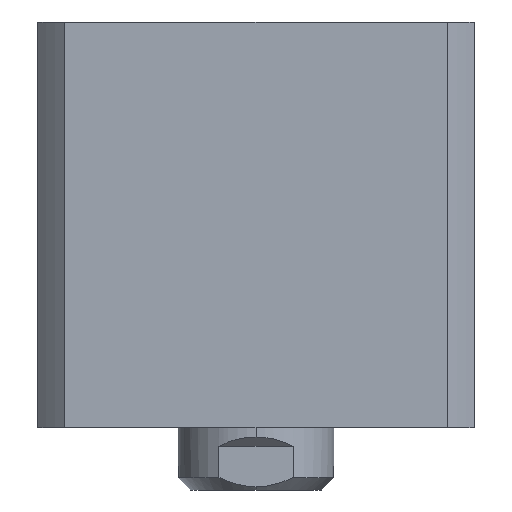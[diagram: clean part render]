
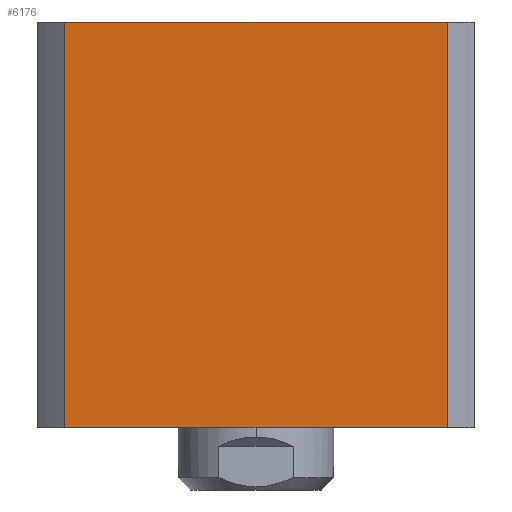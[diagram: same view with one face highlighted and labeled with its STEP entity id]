
A CAD part, front view. The second image highlights one B-rep face of the part: STEP entity #6176.
In plain terms, the highlighted planar face has unit normal (0, -1, 0) as drawn and (1, 0, 0) by its records, which use the part's own axes.
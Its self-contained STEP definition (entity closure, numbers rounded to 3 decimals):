
#682 = FACE_OUTER_BOUND ( 'NONE', #5577, .T. ) ;
#927 = CARTESIAN_POINT ( 'NONE',  ( 35., 30.615, 65. ) ) ;
#1116 = DIRECTION ( 'NONE',  ( 0., 0., -1. ) ) ;
#1283 = CARTESIAN_POINT ( 'NONE',  ( 35., 35., 65. ) ) ;
#1636 = VECTOR ( 'NONE', #3639, 1000. ) ;
#1765 = LINE ( 'NONE', #7876, #2015 ) ;
#2011 = DIRECTION ( 'NONE',  ( 0., 1., 0. ) ) ;
#2015 = VECTOR ( 'NONE', #2446, 1000. ) ;
#2019 = PLANE ( 'NONE',  #3649 ) ;
#2197 = VERTEX_POINT ( 'NONE', #3119 ) ;
#2446 = DIRECTION ( 'NONE',  ( 0., 0., 1. ) ) ;
#2974 = VECTOR ( 'NONE', #1116, 1000. ) ;
#3119 = CARTESIAN_POINT ( 'NONE',  ( 35., 30.615, 0. ) ) ;
#3639 = DIRECTION ( 'NONE',  ( 0., 1., 0. ) ) ;
#3649 = AXIS2_PLACEMENT_3D ( 'NONE', #5117, #4366, #9779 ) ;
#3917 = LINE ( 'NONE', #9084, #1636 ) ;
#3986 = CARTESIAN_POINT ( 'NONE',  ( 35., -30.615, 65. ) ) ;
#4366 = DIRECTION ( 'NONE',  ( -1., 0., 0. ) ) ;
#4900 = CARTESIAN_POINT ( 'NONE',  ( 35., -30.615, 0. ) ) ;
#5066 = LINE ( 'NONE', #8070, #2974 ) ;
#5117 = CARTESIAN_POINT ( 'NONE',  ( 35., 35., 65. ) ) ;
#5315 = ORIENTED_EDGE ( 'NONE', *, *, #6090, .F. ) ;
#5422 = VERTEX_POINT ( 'NONE', #3986 ) ;
#5577 = EDGE_LOOP ( 'NONE', ( #5315, #6425, #7054, #5928 ) ) ;
#5928 = ORIENTED_EDGE ( 'NONE', *, *, #8090, .T. ) ;
#6090 = EDGE_CURVE ( 'NONE', #8456, #2197, #5066, .T. ) ;
#6176 = ADVANCED_FACE ( 'NONE', ( #682 ), #2019, .F. ) ;
#6410 = EDGE_CURVE ( 'NONE', #5422, #8456, #7695, .T. ) ;
#6425 = ORIENTED_EDGE ( 'NONE', *, *, #6410, .F. ) ;
#7054 = ORIENTED_EDGE ( 'NONE', *, *, #7242, .F. ) ;
#7242 = EDGE_CURVE ( 'NONE', #9418, #5422, #1765, .T. ) ;
#7695 = LINE ( 'NONE', #1283, #9784 ) ;
#7876 = CARTESIAN_POINT ( 'NONE',  ( 35., -30.615, 300. ) ) ;
#8070 = CARTESIAN_POINT ( 'NONE',  ( 35., 30.615, 300. ) ) ;
#8090 = EDGE_CURVE ( 'NONE', #9418, #2197, #3917, .T. ) ;
#8456 = VERTEX_POINT ( 'NONE', #927 ) ;
#9084 = CARTESIAN_POINT ( 'NONE',  ( 35., 35., 0. ) ) ;
#9418 = VERTEX_POINT ( 'NONE', #4900 ) ;
#9779 = DIRECTION ( 'NONE',  ( 0., 0., 1. ) ) ;
#9784 = VECTOR ( 'NONE', #2011, 1000. ) ;
